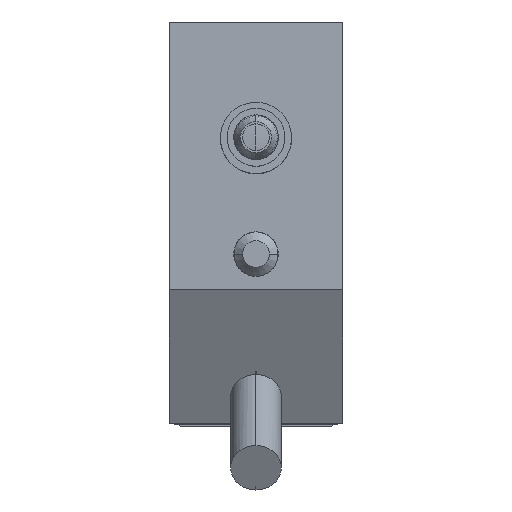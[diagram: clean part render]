
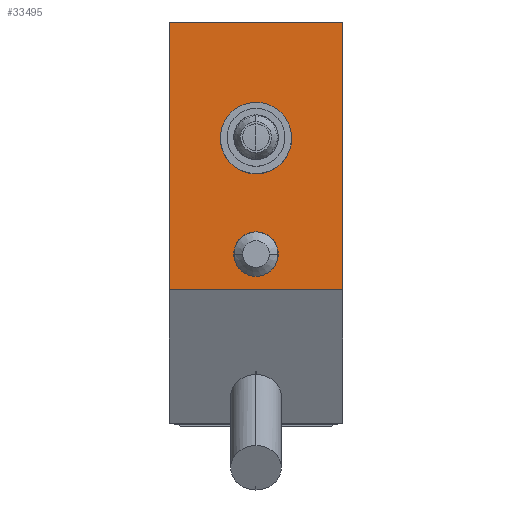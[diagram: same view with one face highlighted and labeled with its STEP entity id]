
A CAD part, top view. The second image highlights one B-rep face of the part: STEP entity #33495.
In plain terms, the highlighted planar face has unit normal (0, 0, 1).
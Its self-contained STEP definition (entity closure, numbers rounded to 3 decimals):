
#46 = ORIENTED_EDGE ( 'NONE', *, *, #39044, .T. ) ;
#271 = LINE ( 'NONE', #40370, #42092 ) ;
#589 = FACE_OUTER_BOUND ( 'NONE', #5616, .T. ) ;
#2119 = CARTESIAN_POINT ( 'NONE',  ( 100.869, 108.827, 127.99 ) ) ;
#2456 = CARTESIAN_POINT ( 'NONE',  ( 110.619, 121.827, 127.99 ) ) ;
#2855 = EDGE_CURVE ( 'NONE', #26801, #30403, #21402, .T. ) ;
#2975 = CARTESIAN_POINT ( 'NONE',  ( 100.869, 98.327, 127.99 ) ) ;
#3192 = CARTESIAN_POINT ( 'NONE',  ( 91.119, 91.827, 127.99 ) ) ;
#5441 = DIRECTION ( 'NONE',  ( -1., 0., 0. ) ) ;
#5616 = EDGE_LOOP ( 'NONE', ( #41523, #41959, #42003, #46 ) ) ;
#6145 = AXIS2_PLACEMENT_3D ( 'NONE', #37414, #17694, #40705 ) ;
#6166 = VERTEX_POINT ( 'NONE', #2456 ) ;
#6601 = CARTESIAN_POINT ( 'NONE',  ( 91.119, 121.827, 127.99 ) ) ;
#7111 = EDGE_CURVE ( 'NONE', #20105, #6166, #33729, .T. ) ;
#7697 = CARTESIAN_POINT ( 'NONE',  ( 96.869, 108.827, 127.99 ) ) ;
#8369 = FACE_BOUND ( 'NONE', #8745, .T. ) ;
#8452 = CARTESIAN_POINT ( 'NONE',  ( 100.869, 108.827, 127.99 ) ) ;
#8745 = EDGE_LOOP ( 'NONE', ( #16899, #38273 ) ) ;
#9340 = EDGE_LOOP ( 'NONE', ( #38396, #41396 ) ) ;
#9907 = LINE ( 'NONE', #13569, #26365 ) ;
#9931 = DIRECTION ( 'NONE',  ( 0., 0., -1. ) ) ;
#11777 = DIRECTION ( 'NONE',  ( -1., 0., 0. ) ) ;
#12700 = CIRCLE ( 'NONE', #17938, 2.5 ) ;
#13569 = CARTESIAN_POINT ( 'NONE',  ( 91.119, 121.827, 127.99 ) ) ;
#14421 = CARTESIAN_POINT ( 'NONE',  ( 100.869, 95.827, 127.99 ) ) ;
#16899 = ORIENTED_EDGE ( 'NONE', *, *, #27437, .T. ) ;
#17350 = DIRECTION ( 'NONE',  ( 0., 1., 0. ) ) ;
#17549 = VECTOR ( 'NONE', #26227, 1000. ) ;
#17694 = DIRECTION ( 'NONE',  ( 0., 0., -1. ) ) ;
#17765 = DIRECTION ( 'NONE',  ( 0., -1., 0. ) ) ;
#17938 = AXIS2_PLACEMENT_3D ( 'NONE', #14421, #37488, #17765 ) ;
#20105 = VERTEX_POINT ( 'NONE', #29910 ) ;
#20514 = DIRECTION ( 'NONE',  ( 1., 0., 0. ) ) ;
#21123 = VERTEX_POINT ( 'NONE', #6601 ) ;
#21402 = CIRCLE ( 'NONE', #25503, 4. ) ;
#22764 = CARTESIAN_POINT ( 'NONE',  ( 104.869, 108.827, 127.99 ) ) ;
#24217 = VERTEX_POINT ( 'NONE', #28747 ) ;
#25177 = DIRECTION ( 'NONE',  ( 0., 0., -1. ) ) ;
#25291 = DIRECTION ( 'NONE',  ( 0., 1., 0. ) ) ;
#25338 = EDGE_CURVE ( 'NONE', #24217, #21123, #271, .T. ) ;
#25368 = EDGE_CURVE ( 'NONE', #40697, #33470, #12700, .T. ) ;
#25503 = AXIS2_PLACEMENT_3D ( 'NONE', #2119, #25177, #5441 ) ;
#26112 = AXIS2_PLACEMENT_3D ( 'NONE', #8452, #31522, #11777 ) ;
#26220 = LINE ( 'NONE', #3192, #17549 ) ;
#26227 = DIRECTION ( 'NONE',  ( 1., 0., 0. ) ) ;
#26365 = VECTOR ( 'NONE', #20514, 1000. ) ;
#26519 = CIRCLE ( 'NONE', #6145, 2.5 ) ;
#26801 = VERTEX_POINT ( 'NONE', #22764 ) ;
#27437 = EDGE_CURVE ( 'NONE', #30403, #26801, #38192, .T. ) ;
#28747 = CARTESIAN_POINT ( 'NONE',  ( 91.119, 91.827, 127.99 ) ) ;
#29659 = CARTESIAN_POINT ( 'NONE',  ( 91.119, 91.827, 127.99 ) ) ;
#29910 = CARTESIAN_POINT ( 'NONE',  ( 110.619, 91.827, 127.99 ) ) ;
#30374 = EDGE_CURVE ( 'NONE', #33470, #40697, #26519, .T. ) ;
#30403 = VERTEX_POINT ( 'NONE', #7697 ) ;
#31522 = DIRECTION ( 'NONE',  ( 0., 0., -1. ) ) ;
#31951 = CARTESIAN_POINT ( 'NONE',  ( 110.619, 91.827, 127.99 ) ) ;
#32991 = DIRECTION ( 'NONE',  ( -1., 0., 0. ) ) ;
#33470 = VERTEX_POINT ( 'NONE', #2975 ) ;
#33495 = ADVANCED_FACE ( 'NONE', ( #8369, #35687, #589 ), #36158, .F. ) ;
#33729 = LINE ( 'NONE', #31951, #41442 ) ;
#34786 = CARTESIAN_POINT ( 'NONE',  ( 100.869, 93.327, 127.99 ) ) ;
#35687 = FACE_BOUND ( 'NONE', #9340, .T. ) ;
#36158 = PLANE ( 'NONE',  #38704 ) ;
#36792 = EDGE_CURVE ( 'NONE', #21123, #6166, #9907, .T. ) ;
#37414 = CARTESIAN_POINT ( 'NONE',  ( 100.869, 95.827, 127.99 ) ) ;
#37488 = DIRECTION ( 'NONE',  ( 0., 0., -1. ) ) ;
#38192 = CIRCLE ( 'NONE', #26112, 4. ) ;
#38273 = ORIENTED_EDGE ( 'NONE', *, *, #2855, .T. ) ;
#38396 = ORIENTED_EDGE ( 'NONE', *, *, #25368, .T. ) ;
#38704 = AXIS2_PLACEMENT_3D ( 'NONE', #29659, #9931, #32991 ) ;
#39044 = EDGE_CURVE ( 'NONE', #24217, #20105, #26220, .T. ) ;
#40370 = CARTESIAN_POINT ( 'NONE',  ( 91.119, 91.827, 127.99 ) ) ;
#40697 = VERTEX_POINT ( 'NONE', #34786 ) ;
#40705 = DIRECTION ( 'NONE',  ( 0., -1., 0. ) ) ;
#41396 = ORIENTED_EDGE ( 'NONE', *, *, #30374, .T. ) ;
#41442 = VECTOR ( 'NONE', #25291, 1000. ) ;
#41523 = ORIENTED_EDGE ( 'NONE', *, *, #7111, .T. ) ;
#41959 = ORIENTED_EDGE ( 'NONE', *, *, #36792, .F. ) ;
#42003 = ORIENTED_EDGE ( 'NONE', *, *, #25338, .F. ) ;
#42092 = VECTOR ( 'NONE', #17350, 1000. ) ;
